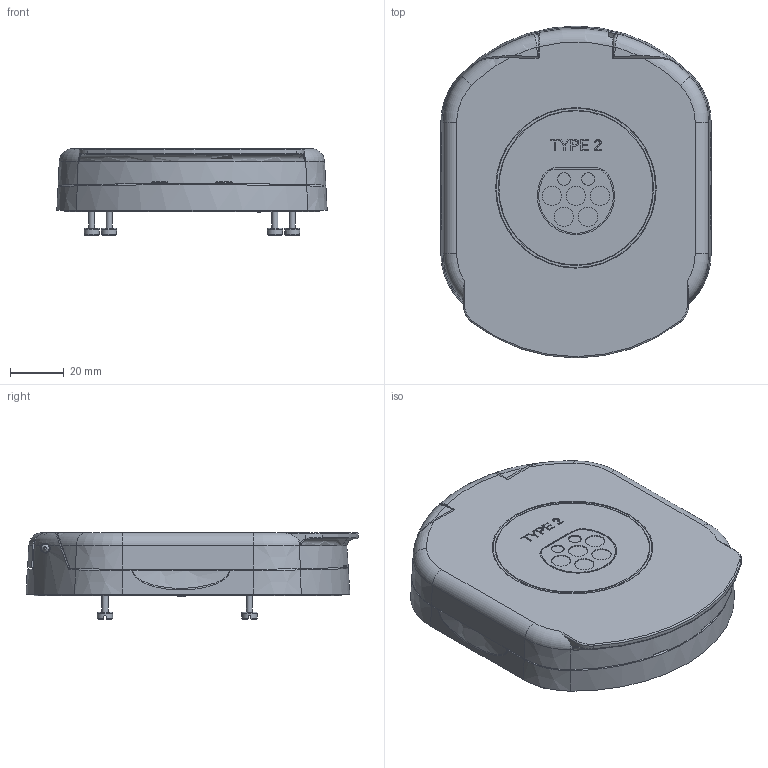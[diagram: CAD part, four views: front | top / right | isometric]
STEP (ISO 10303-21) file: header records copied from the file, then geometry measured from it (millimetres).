
FILE_DESCRIPTION(/* description */ (''),/* implementation_level */ '2;1');
FILE_NAME(/* name */ '4006207.stp',/* time_stamp */ '2020-01-29T08:04:01+01:00',/* author */ (''),/* organization */ (''),/* preprocessor_version */ 'ST-DEVELOPER v16.7',/* originating_system */ 'SIEMENS PLM Software NX 1892',/* authorisation */ '');
FILE_SCHEMA (('AUTOMOTIVE_DESIGN { 1 0 10303 214 3 1 1 1 }'));
Products named in the file (1): BSOM168C2C39uwye
Bounding box: 101.05 x 124.09 x 32.4 mm (x, y, z)
Volume: 89107 mm3; surface area: 85886 mm2
Topology: 10 solids, 12 shells, 4182 faces, 9027 edges, 5634 vertices
Faces by surface type: plane 3417, cylinder 287, bspline 232, cone 152, torus 74, sphere 14, extrusion 6
Full cylindrical faces by diameter (mm): 2.25 x4, 3 x3, 3.1 x4, 3.2 x2, 4.7 x2, 5.7 x4, 7.2 x5
Entity records: 125351 total; most frequent: CARTESIAN_POINT 33305, DIRECTION 20229, ORIENTED_EDGE 17804, EDGE_CURVE 8902, AXIS2_PLACEMENT_3D 8038, VERTEX_POINT 5605, EDGE_LOOP 5063, ADVANCED_FACE 4182
